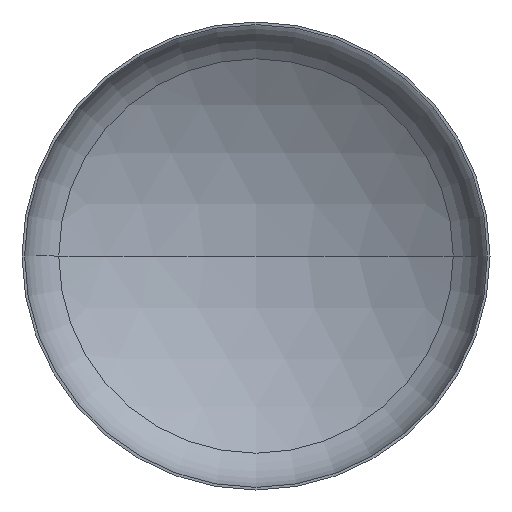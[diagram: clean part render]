
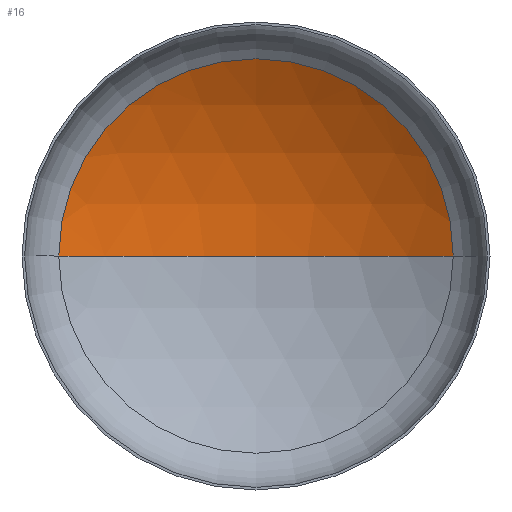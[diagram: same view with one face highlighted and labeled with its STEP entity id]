
A CAD part, front view. The second image highlights one B-rep face of the part: STEP entity #16.
In plain terms, the highlighted spherical face has radius 3600 mm.
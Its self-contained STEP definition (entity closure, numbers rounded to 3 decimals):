
#3 = AXIS2_PLACEMENT_3D ( 'NONE', #257, #26, #284 ) ;
#14 = AXIS2_PLACEMENT_3D ( 'NONE', #399, #255, #20 ) ;
#16 = ADVANCED_FACE ( 'NONE', ( #280 ), #162, .F. ) ;
#20 = DIRECTION ( 'NONE',  ( 1., 0., 0. ) ) ;
#26 = DIRECTION ( 'NONE',  ( 0., 0., -1. ) ) ;
#47 = ORIENTED_EDGE ( 'NONE', *, *, #377, .T. ) ;
#85 = ORIENTED_EDGE ( 'NONE', *, *, #370, .T. ) ;
#86 = VERTEX_POINT ( 'NONE', #198 ) ;
#90 = AXIS2_PLACEMENT_3D ( 'NONE', #200, #163, #136 ) ;
#122 = EDGE_LOOP ( 'NONE', ( #351, #85, #47 ) ) ;
#136 = DIRECTION ( 'NONE',  ( -1., 0., 0. ) ) ;
#138 = CIRCLE ( 'NONE', #14, 3600. ) ;
#162 = SPHERICAL_SURFACE ( 'NONE', #90, 3600. ) ;
#163 = DIRECTION ( 'NONE',  ( 0., 0., -1. ) ) ;
#198 = CARTESIAN_POINT ( 'NONE',  ( 0., 1205.562, 0. ) ) ;
#200 = CARTESIAN_POINT ( 'NONE',  ( 0., -2394.438, 0. ) ) ;
#211 = CARTESIAN_POINT ( 'NONE',  ( 0., 665.795, 0. ) ) ;
#212 = CIRCLE ( 'NONE', #3, 3600. ) ;
#219 = VERTEX_POINT ( 'NONE', #302 ) ;
#220 = CARTESIAN_POINT ( 'NONE',  ( -1896.041, 665.795, 0. ) ) ;
#237 = DIRECTION ( 'NONE',  ( 1., 0., 0. ) ) ;
#255 = DIRECTION ( 'NONE',  ( 0., 0., 1. ) ) ;
#257 = CARTESIAN_POINT ( 'NONE',  ( 0., -2394.438, 0. ) ) ;
#277 = VERTEX_POINT ( 'NONE', #220 ) ;
#280 = FACE_OUTER_BOUND ( 'NONE', #122, .T. ) ;
#284 = DIRECTION ( 'NONE',  ( -1., 0., 0. ) ) ;
#302 = CARTESIAN_POINT ( 'NONE',  ( 1896.041, 665.795, 0. ) ) ;
#340 = CIRCLE ( 'NONE', #363, 1896.041 ) ;
#351 = ORIENTED_EDGE ( 'NONE', *, *, #356, .F. ) ;
#356 = EDGE_CURVE ( 'NONE', #86, #277, #138, .T. ) ;
#363 = AXIS2_PLACEMENT_3D ( 'NONE', #211, #380, #237 ) ;
#370 = EDGE_CURVE ( 'NONE', #86, #219, #212, .T. ) ;
#377 = EDGE_CURVE ( 'NONE', #219, #277, #340, .T. ) ;
#380 = DIRECTION ( 'NONE',  ( 0., -1., 0. ) ) ;
#399 = CARTESIAN_POINT ( 'NONE',  ( 0., -2394.438, 0. ) ) ;
